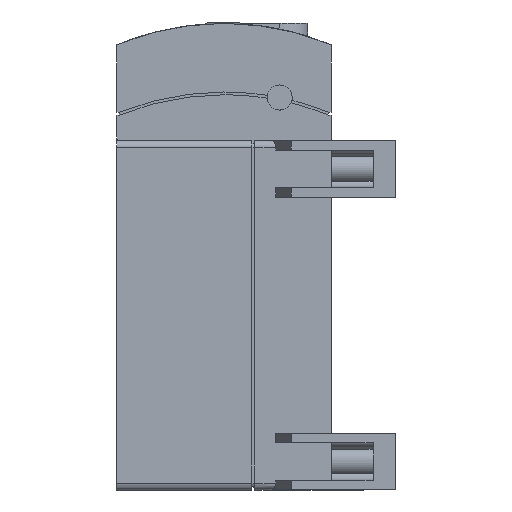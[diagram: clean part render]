
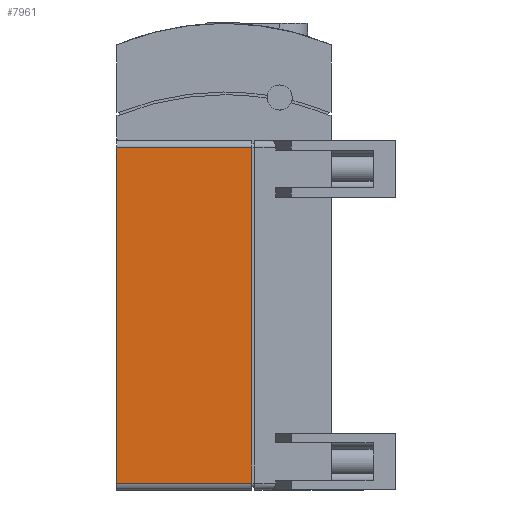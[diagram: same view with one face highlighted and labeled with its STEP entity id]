
A CAD part, left-side view. The second image highlights one B-rep face of the part: STEP entity #7961.
In plain terms, the highlighted planar face has unit normal (-1, 0, 0).
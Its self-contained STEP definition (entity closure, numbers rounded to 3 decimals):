
#318 = EDGE_LOOP ( 'NONE', ( #13068, #13071, #13074, #13077 ) ) ;
#3706 = CARTESIAN_POINT ( 'NONE',  ( 9.8, 51.5, 0. ) ) ;
#3710 = CARTESIAN_POINT ( 'NONE',  ( 9.8, 100., 2.5 ) ) ;
#3711 = DIRECTION ( 'NONE',  ( 0., -1., 0. ) ) ;
#3712 = DIRECTION ( 'NONE',  ( 0., 0., 1. ) ) ;
#3713 = CARTESIAN_POINT ( 'NONE',  ( 9.8, 100., 122.9 ) ) ;
#3715 = DIRECTION ( 'NONE',  ( 0., -1., 0. ) ) ;
#6427 = VERTEX_POINT ( 'NONE', #14329 ) ;
#6443 = VERTEX_POINT ( 'NONE', #32205 ) ;
#7961 = ADVANCED_FACE ( 'NONE', ( #16179 ), #18527, .F. ) ;
#13068 = ORIENTED_EDGE ( 'NONE', *, *, #27712, .T. ) ;
#13071 = ORIENTED_EDGE ( 'NONE', *, *, #27713, .T. ) ;
#13074 = ORIENTED_EDGE ( 'NONE', *, *, #27714, .F. ) ;
#13077 = ORIENTED_EDGE ( 'NONE', *, *, #33176, .F. ) ;
#13398 = VERTEX_POINT ( 'NONE', #17655 ) ;
#13408 = VERTEX_POINT ( 'NONE', #17660 ) ;
#14329 = CARTESIAN_POINT ( 'NONE',  ( 9.8, 100., 122.9 ) ) ;
#15684 = CARTESIAN_POINT ( 'NONE',  ( 9.8, 100., 2.5 ) ) ;
#15686 = DIRECTION ( 'NONE',  ( 0., 0., 1. ) ) ;
#16179 = FACE_OUTER_BOUND ( 'NONE', #318, .T. ) ;
#17655 = CARTESIAN_POINT ( 'NONE',  ( 9.8, 51.5, 2.5 ) ) ;
#17660 = CARTESIAN_POINT ( 'NONE',  ( 9.8, 51.5, 122.9 ) ) ;
#18527 = PLANE ( 'NONE',  #32335 ) ;
#18528 = CARTESIAN_POINT ( 'NONE',  ( 9.8, 100., 2.5 ) ) ;
#18533 = DIRECTION ( 'NONE',  ( 1., 0., 0. ) ) ;
#18534 = DIRECTION ( 'NONE',  ( 0., 0., -1. ) ) ;
#21206 = VECTOR ( 'NONE', #3715, 1000. ) ;
#21208 = VECTOR ( 'NONE', #3712, 1000. ) ;
#21209 = LINE ( 'NONE', #3713, #21206 ) ;
#21210 = VECTOR ( 'NONE', #3711, 1000. ) ;
#21213 = LINE ( 'NONE', #3710, #21210 ) ;
#21218 = LINE ( 'NONE', #3706, #21208 ) ;
#24639 = LINE ( 'NONE', #15684, #24641 ) ;
#24641 = VECTOR ( 'NONE', #15686, 1000. ) ;
#27712 = EDGE_CURVE ( 'NONE', #6443, #13398, #21213, .T. ) ;
#27713 = EDGE_CURVE ( 'NONE', #13398, #13408, #21218, .T. ) ;
#27714 = EDGE_CURVE ( 'NONE', #6427, #13408, #21209, .T. ) ;
#32205 = CARTESIAN_POINT ( 'NONE',  ( 9.8, 100., 2.5 ) ) ;
#32335 = AXIS2_PLACEMENT_3D ( 'NONE', #18528, #18533, #18534 ) ;
#33176 = EDGE_CURVE ( 'NONE', #6443, #6427, #24639, .T. ) ;
